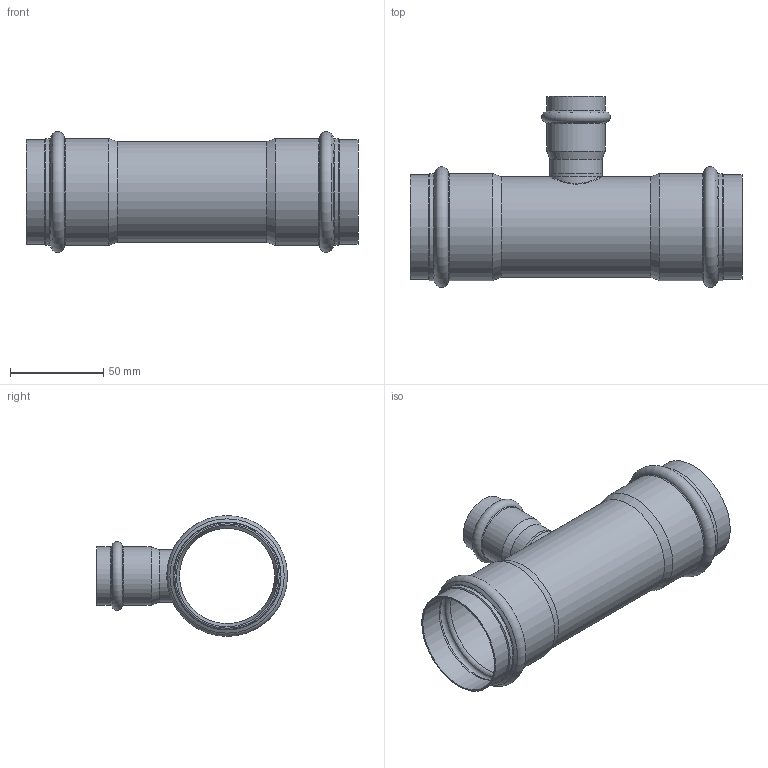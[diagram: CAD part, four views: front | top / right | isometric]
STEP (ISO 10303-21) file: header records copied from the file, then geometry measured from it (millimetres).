
FILE_DESCRIPTION((''),'2;1');
FILE_NAME('G:\Technics\CAD\Bauteile\054\69130542854(1).stp','2008-03-05T15:18:21',('herberg'),(''),'Autodesk Inventor 2008','Autodesk Inventor 2008','');
FILE_SCHEMA(('AUTOMOTIVE_DESIGN { 1 0 10303 214 1 1 1 1 }'));
Length unit declared in the file: millimetre
Products named in the file (3): 69130542854(1); 691305428LM(1); 6924328HM(1)
Assembly tree (2 placements, depth 2):
  69130542854(1)
    691305428LM(1)
    6924328HM(1)
Bounding box: 178 x 102.4 x 64.8 mm (x, y, z)
Volume: 51542.1 mm3; surface area: 72820.7 mm2
Topology: 2 solids, 2 shells, 59 faces, 123 edges, 68 vertices
Faces by surface type: cylinder 20, cone 14, bspline 13, torus 7, plane 5
Full cylindrical faces by diameter (mm): 25 x2, 28 x2, 28.2 x2, 31.2 x2, 51 x1, 54 x1, 54.35 x4, 55.95 x2, 57.35 x4
Entity records: 2982 total; most frequent: CARTESIAN_POINT 1933, DIRECTION 216, ORIENTED_EDGE 124, EDGE_LOOP 118, AXIS2_PLACEMENT_3D 108, EDGE_CURVE 62, VERTEX_POINT 60, FACE_OUTER_BOUND 59
